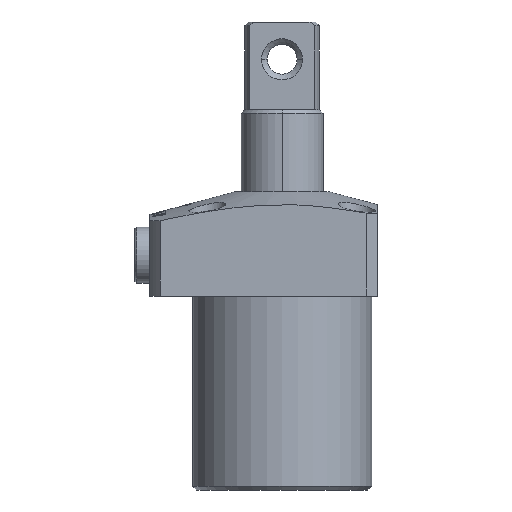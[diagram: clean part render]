
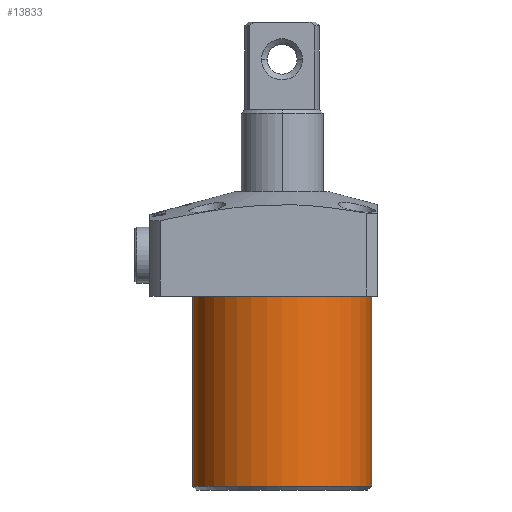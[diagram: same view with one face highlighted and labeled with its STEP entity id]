
A CAD part, front view. The second image highlights one B-rep face of the part: STEP entity #13833.
In plain terms, the highlighted cylindrical face has radius 24 mm (diameter 48 mm), a partial arc.
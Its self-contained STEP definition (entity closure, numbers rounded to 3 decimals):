
#88 = DIRECTION ( 'NONE',  ( 0., 0., -1. ) ) ;
#767 = CARTESIAN_POINT ( 'NONE',  ( -24., 0., -51. ) ) ;
#790 = CARTESIAN_POINT ( 'NONE',  ( 24., 0., -52. ) ) ;
#1601 = CARTESIAN_POINT ( 'NONE',  ( -24., 0., 0. ) ) ;
#2149 = FACE_OUTER_BOUND ( 'NONE', #8155, .T. ) ;
#2513 = CIRCLE ( 'NONE', #14880, 24. ) ;
#2843 = CARTESIAN_POINT ( 'NONE',  ( -24., 0., -52. ) ) ;
#3865 = EDGE_CURVE ( 'NONE', #12626, #7589, #7767, .T. ) ;
#4543 = VECTOR ( 'NONE', #9883, 1000. ) ;
#4742 = CARTESIAN_POINT ( 'NONE',  ( 24., 0., -51. ) ) ;
#5199 = DIRECTION ( 'NONE',  ( 0., 0., 1. ) ) ;
#5874 = ORIENTED_EDGE ( 'NONE', *, *, #3865, .T. ) ;
#6242 = CIRCLE ( 'NONE', #11698, 24. ) ;
#6878 = AXIS2_PLACEMENT_3D ( 'NONE', #13566, #5199, #8769 ) ;
#7106 = DIRECTION ( 'NONE',  ( 0., 0., 1. ) ) ;
#7235 = CARTESIAN_POINT ( 'NONE',  ( 0., 0., 0. ) ) ;
#7589 = VERTEX_POINT ( 'NONE', #11725 ) ;
#7767 = LINE ( 'NONE', #790, #10945 ) ;
#8155 = EDGE_LOOP ( 'NONE', ( #9164, #14598, #5874, #14254 ) ) ;
#8448 = DIRECTION ( 'NONE',  ( -1., 0., 0. ) ) ;
#8491 = LINE ( 'NONE', #2843, #4543 ) ;
#8769 = DIRECTION ( 'NONE',  ( 1., 0., 0. ) ) ;
#9164 = ORIENTED_EDGE ( 'NONE', *, *, #13346, .F. ) ;
#9883 = DIRECTION ( 'NONE',  ( 0., 0., 1. ) ) ;
#10341 = DIRECTION ( 'NONE',  ( 0., 0., 1. ) ) ;
#10552 = CYLINDRICAL_SURFACE ( 'NONE', #6878, 24. ) ;
#10873 = VERTEX_POINT ( 'NONE', #1601 ) ;
#10945 = VECTOR ( 'NONE', #10341, 1000. ) ;
#11698 = AXIS2_PLACEMENT_3D ( 'NONE', #7235, #88, #8448 ) ;
#11725 = CARTESIAN_POINT ( 'NONE',  ( 24., 0., 0. ) ) ;
#12626 = VERTEX_POINT ( 'NONE', #4742 ) ;
#13031 = VERTEX_POINT ( 'NONE', #767 ) ;
#13194 = EDGE_CURVE ( 'NONE', #13031, #12626, #2513, .T. ) ;
#13346 = EDGE_CURVE ( 'NONE', #13031, #10873, #8491, .T. ) ;
#13566 = CARTESIAN_POINT ( 'NONE',  ( 0., 0., -52. ) ) ;
#13833 = ADVANCED_FACE ( 'NONE', ( #2149 ), #10552, .T. ) ;
#14074 = EDGE_CURVE ( 'NONE', #7589, #10873, #6242, .T. ) ;
#14254 = ORIENTED_EDGE ( 'NONE', *, *, #14074, .T. ) ;
#14265 = CARTESIAN_POINT ( 'NONE',  ( 0., 0., -51. ) ) ;
#14598 = ORIENTED_EDGE ( 'NONE', *, *, #13194, .T. ) ;
#14880 = AXIS2_PLACEMENT_3D ( 'NONE', #14265, #7106, #15460 ) ;
#15460 = DIRECTION ( 'NONE',  ( -1., 0., 0. ) ) ;
